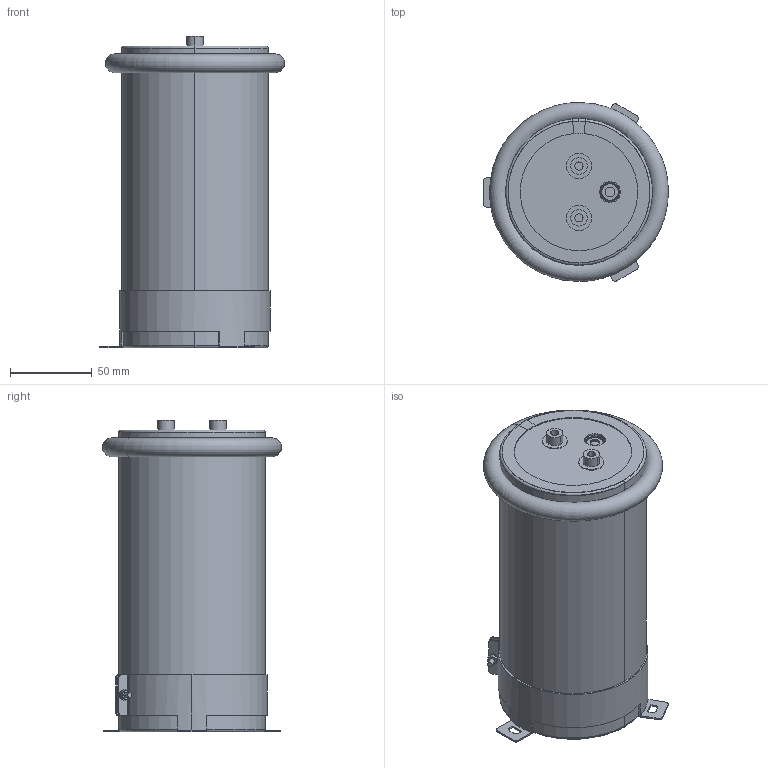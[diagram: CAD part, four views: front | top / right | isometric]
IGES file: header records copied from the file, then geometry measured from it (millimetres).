
Start section: 3D InterOp IGES (v. 2019 1.0.2), Spatial Corp. Copyright (c) 1999-2017.
Global section: file name: 90x185_Screw.igs; native system: Spatial Corp.; preprocessor: 3D InterOp ACIS/IGES; author: Noname; organization: Noname; date: 20220314.175243; units: millimetre
Bounding box: 113.35 x 109.69 x 191 mm (x, y, z)
Volume: 1521606.8 mm3; surface area: 336824.5 mm2
Topology: 9 solids, 9 shells, 352 faces, 953 edges, 591 vertices
Faces by surface type: plane 112, cylinder 110, torus 90, cone 38, sphere 2
